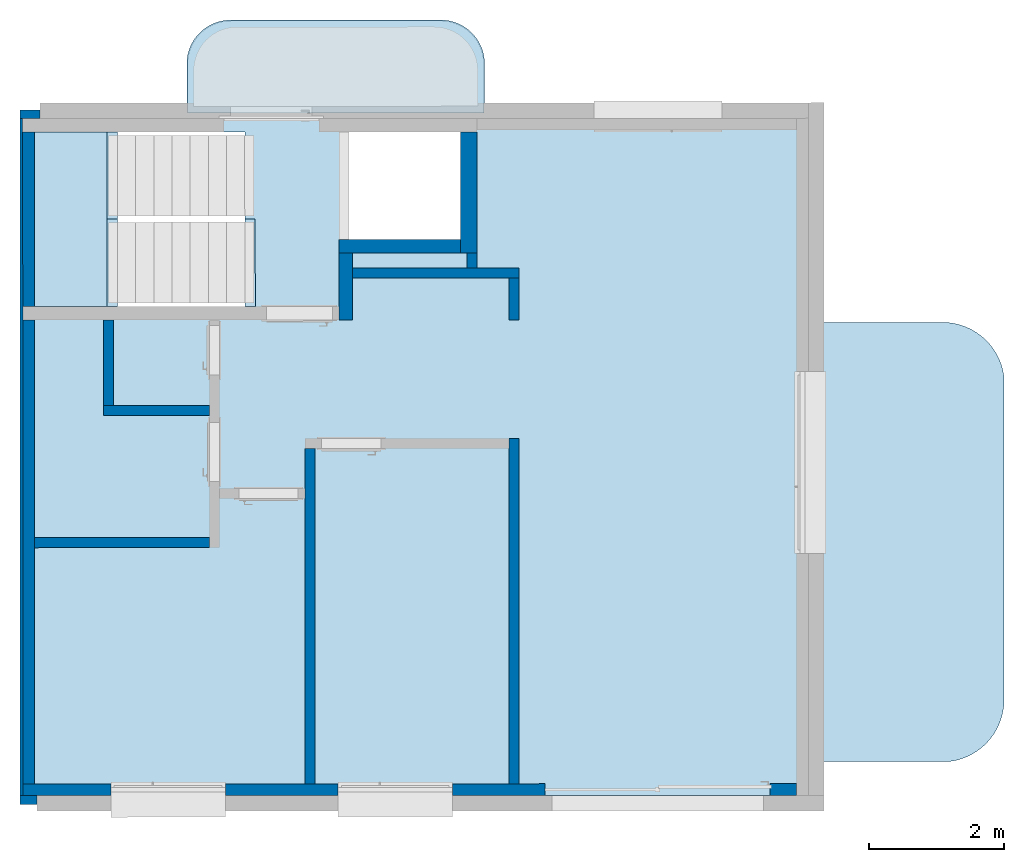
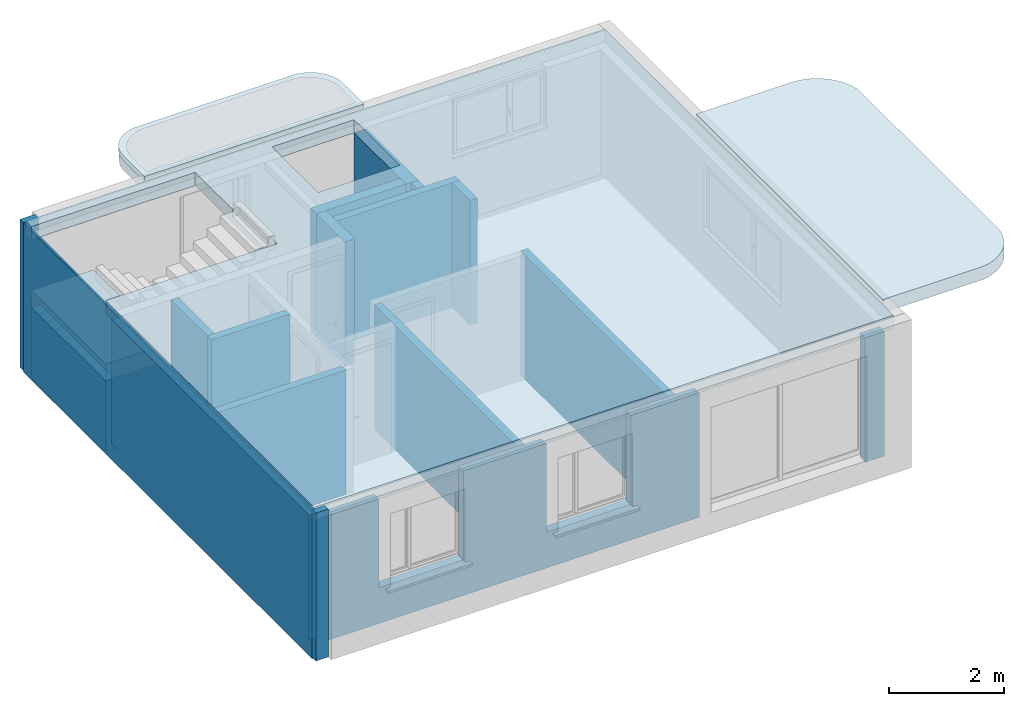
# One storey, part 1 of 9: 17 walls, 5 slabs, 8 openings.
"""IFC2X3 building model written with IfcOpenShell, lengths in metres."""

from ifc_helpers import new_model, entity, si_unit, converted_unit, derived_unit, direction, frame, frame_2d, origin, origin_with_axes, place, context, subcontext, project, spatial, polyline, rectangle, outline, extrude, faceted_brep, material, layer, layer_set, layer_usage, element, save


model = new_model("IFC2X3")

# Units and contexts
model_context = context("Model", 3, precision=1e-05, world=origin(), true_north=direction((0.772621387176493, -0.634867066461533)))
body_context = subcontext(model_context, "Body", "Model", "MODEL_VIEW")
ifc_project = project(units=[si_unit("LENGTHUNIT", "METRE"), si_unit("AREAUNIT", "SQUARE_METRE"), si_unit("VOLUMEUNIT", "CUBIC_METRE"), si_unit("MASSUNIT", "GRAM", prefix="KILO"), converted_unit("PLANEANGLEUNIT", "DEGREE", entity("IfcPlaneAngleMeasure", 0.0174532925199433), si_unit("PLANEANGLEUNIT", "RADIAN"), dimensions=[0, 0, 0, 0, 0, 0, 0]), derived_unit("THERMALTRANSMITTANCEUNIT", [(si_unit("POWERUNIT", "WATT"), 1), (si_unit("THERMODYNAMICTEMPERATUREUNIT", "KELVIN"), -1), (si_unit("LENGTHUNIT", "METRE"), -2)]), derived_unit("VOLUMETRICFLOWRATEUNIT", [(si_unit("LENGTHUNIT", "METRE"), 3), (converted_unit("TIMEUNIT", "hour", entity("IfcTimeMeasure", 3600.0), si_unit("TIMEUNIT", "SECOND"), dimensions=[0, 0, 1, 0, 0, 0, 0]), -1), (si_unit("LENGTHUNIT", "METRE"), -1)])], contexts=[model_context])

# Site, building, storey
site_placement = place(None, origin())
site = spatial("IfcSite", under=ifc_project, at=site_placement, Name="Modelle auf dem Nullpunkt", CompositionType="ELEMENT")
building_placement = place(site_placement, origin())
building = spatial("IfcBuilding", under=site, at=building_placement, Name="I", CompositionType="ELEMENT")
storey_placement = place(building_placement, origin())
storey = spatial("IfcBuildingStorey", under=building, at=storey_placement, Name="EG", CompositionType="ELEMENT", Elevation=0.0)

# Slabs
ifc_material_1 = material(Name="Béton")
slab_1_placement = place(storey_placement, frame((31.8119370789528, 2.21747843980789, 438.54)))
element("IfcSlab", 1, at=slab_1_placement, inside=storey, material=ifc_material_1, PredefinedType="FLOOR", context=body_context, shape_type="SweptSolid", body=[
    extrude(outline(polyline([(4.39933490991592, 0.750717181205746), (4.39736242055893, 0.779819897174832), (4.39408622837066, 0.808804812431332), (4.3895129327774, 0.837613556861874), (4.3836517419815, 0.866188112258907), (4.37651446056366, 0.894470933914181), (4.36811546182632, 0.922405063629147), (4.35847166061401, 0.949934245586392), (4.34760247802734, 0.97700303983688), (4.33552980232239, 1.00355693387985), (4.32227794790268, 1.02954245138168), (4.30787360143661, 1.05490726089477), (4.29234577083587, 1.07960028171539), (4.27572572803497, 1.10357178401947), (4.25804694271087, 1.12677349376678), (4.23934501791, 1.14915868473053), (4.21965761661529, 1.17068227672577), (4.19902438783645, 1.19130092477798), (4.17748688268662, 1.21097310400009), (4.15508847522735, 1.22965919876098), (4.13187427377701, 1.2473215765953), (4.10789102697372, 1.26392466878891), (4.08318703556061, 1.27943503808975), (4.05781204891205, 1.29382144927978), (4.03181716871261, 1.30705492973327), (4.00525474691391, 1.31910882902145), (3.97817827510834, 1.3299588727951), (3.95064228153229, 1.33958320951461), (3.92270222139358, 1.34796245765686), (3.89441436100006, 1.35507974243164), (3.86583566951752, 1.36092073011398), (3.83702369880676, 1.36547365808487), (3.80803647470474, 1.36872935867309), (3.7789323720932, 1.37068127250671), (3.74977000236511, 1.37132547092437), (0.649770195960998, 1.37022967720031), (0.620608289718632, 1.36956486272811), (0.591505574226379, 1.36759237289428), (0.562520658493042, 1.36431618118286), (0.5337119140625, 1.35974288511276), (0.505137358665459, 1.35388169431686), (0.47685453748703, 1.34674441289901), (0.448920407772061, 1.33834541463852), (0.421391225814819, 1.32870161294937), (0.39432243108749, 1.3178324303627), (0.367768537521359, 1.30575975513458), (0.341783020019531, 1.29250790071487), (0.316418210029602, 1.27810355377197), (0.291725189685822, 1.26257572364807), (0.267753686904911, 1.24595568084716), (0.24455197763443, 1.22827689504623), (0.222166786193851, 1.20957497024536), (0.200643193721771, 1.18988756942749), (0.18002454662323, 1.16925434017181), (0.160352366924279, 1.14771683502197), (0.141666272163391, 1.12531842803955), (0.124003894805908, 1.10210422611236), (0.107400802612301, 1.07812097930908), (0.0918904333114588, 1.05341698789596), (0.0775040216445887, 1.02804200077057), (0.0642705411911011, 1.00204712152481), (0.0522166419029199, 0.975484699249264), (0.0413665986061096, 0.948408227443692), (0.0317422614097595, 0.920872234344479), (0.0233630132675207, 0.892932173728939), (0.0162457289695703, 0.864644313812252), (0.0104047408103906, 0.836065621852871), (0.0058518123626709, 0.807253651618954), (0.00259611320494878, 0.778266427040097), (0.000644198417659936, 0.749162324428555), (0.0, 0.719999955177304), (0.000254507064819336, 0.0), (4.40025423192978, 0.00155531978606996), (4.39999972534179, 0.721555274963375), (4.39933490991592, 0.750717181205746)])), origin_with_axes(), (0.0, 0.0, 1.0), 0.22),
])
ifc_material_2 = material(Name="Béton")
slab_2_placement = place(storey_placement, frame((31.8019335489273, 2.21747490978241, 438.76)))
element("IfcSlab", 2, at=slab_2_placement, inside=storey, material=ifc_material_2, PredefinedType="FLOOR", context=body_context, shape_type="SweptSolid", body=[
    extrude(outline(polyline([(4.41736241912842, 0.789826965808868), (4.41408622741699, 0.818811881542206), (4.40951293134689, 0.847620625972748), (4.40365174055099, 0.876195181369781), (4.39651445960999, 0.904478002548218), (4.38811546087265, 0.932412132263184), (4.37847165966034, 0.959941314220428), (4.36760247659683, 0.987010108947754), (4.35552980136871, 1.01356400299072), (4.34227794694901, 1.03954952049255), (4.3278736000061, 1.06491433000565), (4.3123457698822, 1.08960735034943), (4.29572572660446, 1.11357885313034), (4.27804694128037, 1.13678056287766), (4.25934501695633, 1.1591657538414), (4.23965761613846, 1.18068934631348), (4.21902438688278, 1.20130799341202), (4.1974868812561, 1.22098017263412), (4.17508847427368, 1.23966626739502), (4.1518742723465, 1.25732864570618), (4.12789102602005, 1.27393173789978), (4.1031870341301, 1.28944210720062), (4.07781204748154, 1.30382851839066), (4.05181716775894, 1.31706199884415), (4.0252547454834, 1.32911589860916), (3.99817827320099, 1.33996594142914), (3.97064228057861, 1.34959027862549), (3.94270222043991, 1.35796952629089), (3.91441436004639, 1.36508681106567), (3.88583566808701, 1.37092779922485), (3.85702369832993, 1.37548072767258), (3.82803647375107, 1.37873642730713), (3.79893237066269, 1.38068834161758), (3.76977000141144, 1.38133254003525), (0.649770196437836, 1.38022967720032), (0.620608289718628, 1.37956486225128), (0.591505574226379, 1.37759237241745), (0.562520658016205, 1.37431618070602), (0.533711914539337, 1.36974288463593), (0.505137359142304, 1.36388169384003), (0.47685453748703, 1.35674441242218), (0.448920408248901, 1.34834541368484), (0.421391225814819, 1.33870161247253), (0.394322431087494, 1.32783242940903), (0.367768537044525, 1.31575975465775), (0.341783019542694, 1.3025078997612), (0.316418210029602, 1.28810355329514), (0.291725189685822, 1.2725757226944), (0.267753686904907, 1.25595567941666), (0.24455197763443, 1.2382768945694), (0.222166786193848, 1.21957496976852), (0.200643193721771, 1.19988756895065), (0.18002454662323, 1.17925433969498), (0.160352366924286, 1.15771683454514), (0.141666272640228, 1.13531842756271), (0.124003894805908, 1.11210422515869), (0.107400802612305, 1.08812097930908), (0.0918904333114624, 1.06341698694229), (0.0775040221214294, 1.03804200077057), (0.0642705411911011, 1.01204712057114), (0.0522166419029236, 0.98548469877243), (0.0413665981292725, 0.958408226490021), (0.0317422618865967, 0.930872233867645), (0.0233630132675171, 0.902932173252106), (0.016245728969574, 0.874644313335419), (0.0104047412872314, 0.846065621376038), (0.00585181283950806, 0.81725365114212), (0.00259611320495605, 0.788266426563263), (0.000644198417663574, 0.759162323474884), (0.0, 0.72999995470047), (0.000258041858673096, 0.0), (4.42025776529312, 0.00156238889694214), (4.41999972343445, 0.731562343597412), (4.41933490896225, 0.76072425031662), (4.41736241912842, 0.789826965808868)])), origin_with_axes(), (0.0, 0.0, 1.0), 0.1),
])

# Slab, openings
ifc_material_3 = material(Name="Béton")
slab_3_placement = place(storey_placement, frame((29.3670184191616, -0.65338574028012, 437.105)))
slab_3 = element("IfcSlab", 3, at=slab_3_placement, inside=storey, material=ifc_material_3, PredefinedType="FLOOR", context=body_context, shape_type="SweptSolid", body=[
    extrude(rectangle(XDim=1.4053348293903, YDim=2.5899999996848, at=frame_2d((-0.702209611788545, -1.29524829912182), x_axis=(-0.999999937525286, -0.000353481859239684))), frame((1.40533474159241, 2.59049659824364, 0.0), z_axis=(0.0, 0.0, 1.0), x_axis=(1.0, 0.0, 0.0)), (0.0, 0.0, 1.0), 0.36),
])
opening_1_placement = place(slab_3_placement, frame((1.25078809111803, 0.000441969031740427, 0.228336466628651)))
element("IfcOpeningElement", 4, at=opening_1_placement, cuts=slab_3, Name="Beton", ObjectType="Recess", context=body_context, shape_type="SweptSolid", body=[
    extrude(rectangle(XDim=0.155004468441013, YDim=1.29499999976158, at=frame_2d((0.0, 0.0), x_axis=(3.38553310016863e-10, -1.0))), frame((0.0777310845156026, 0.647527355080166, 6.17373972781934e-05), z_axis=(0.000796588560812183, 2.81579627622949e-07, 0.999999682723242), x_axis=(0.000353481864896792, -0.999999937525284, 0.0)), (0.0, -0.000796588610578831, 0.999999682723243), 0.131663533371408),
])
opening_2_placement = place(slab_3_placement, frame((1.25033033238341, 1.29544188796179, 0.131965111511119)))
element("IfcOpeningElement", 5, at=opening_2_placement, cuts=slab_3, Name="Beton", ObjectType="Recess", context=body_context, shape_type="SweptSolid", body=[
    extrude(rectangle(XDim=0.155004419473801, YDim=1.2949999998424, at=frame_2d((0.0, 0.0), x_axis=(-0.999999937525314, -0.000353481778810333))), frame((0.0777310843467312, 0.647527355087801, 0.0), z_axis=(0.0, 0.0, 1.0), x_axis=(1.0, 0.0, 0.0)), (0.0, 0.0, 1.0), 0.228034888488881),
])

ifc_material_4 = material(Name="Béton")
slab_4_placement = place(storey_placement, frame((29.3669477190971, -7.91338528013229, 438.54)))
slab_4 = element("IfcSlab", 6, at=slab_4_placement, inside=storey, material=ifc_material_4, PredefinedType="FLOOR", context=body_context, shape_type="SweptSolid", body=[
    extrude(outline(polyline([(0.0, 10.0499993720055), (0.00355249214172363, 0.0), (11.6635517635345, 0.00412159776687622), (11.6599992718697, 10.0541209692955), (0.0, 10.0499993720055)]), holes=[polyline([(4.84507039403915, 9.85171200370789), (6.49507029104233, 9.85229524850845), (6.49563586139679, 8.25229534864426), (4.84563596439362, 8.25171210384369), (4.84507039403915, 9.85171200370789)])]), origin_with_axes(), (0.0, 0.0, 1.0), 0.28),
])
opening_3_placement = place(slab_4_placement, frame((7.06963539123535e-05, 8.55544143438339, 0.0)))
element("IfcOpeningElement", 7, at=opening_3_placement, cuts=slab_4, Name="Deckendurchbruch", ObjectType="Opening", context=body_context, shape_type="SweptSolid", body=[
    extrude(outline(polyline([(-0.290564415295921, -0.516769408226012), (-0.135620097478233, -0.346714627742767), (1.75444476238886, -0.346046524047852), (1.75404709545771, 0.778953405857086), (-1.5413525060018, 0.777788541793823), (-1.54095483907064, -0.347211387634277), (-0.290564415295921, -0.516769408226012)])), frame((1.5413525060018, 0.516769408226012, 0.0), z_axis=(0.0, 0.0, 1.0), x_axis=(1.0, 0.0, 0.0)), (0.0, 0.0, 1.0), 0.28),
])
opening_4_placement = place(slab_4_placement, frame((0.000468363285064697, 7.25999954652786, 0.0)))
element("IfcOpeningElement", 8, at=opening_4_placement, cuts=slab_4, Name="Deckendurchbruch", ObjectType="Opening", context=body_context, shape_type="SweptSolid", body=[
    extrude(outline(polyline([(-1.54126001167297, 0.516121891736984), (-1.54074216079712, -0.948878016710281), (1.75465744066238, -0.947713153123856), (1.75413958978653, 0.51728675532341), (-0.13592527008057, 0.516618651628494), (-0.290869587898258, 0.346563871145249), (-1.54126001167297, 0.516121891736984)])), frame((1.54126001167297, 0.948878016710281, 0.0), z_axis=(0.0, 0.0, 1.0), x_axis=(1.0, 0.0, 0.0)), (0.0, 0.0, 1.0), 0.28),
])
opening_5_placement = place(slab_4_placement, frame((3.29591418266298, 7.26116440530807, 0.122012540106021)))
element("IfcOpeningElement", 9, at=opening_5_placement, cuts=slab_4, Name="Beton", ObjectType="Recess", context=body_context, shape_type="SweptSolid", body=[
    extrude(rectangle(XDim=0.155000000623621, YDim=1.29499999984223, at=frame_2d((0.0, 0.0), x_axis=(-0.999999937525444, -0.000353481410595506))), frame((0.0777288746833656, 0.647527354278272, 0.0), z_axis=(0.0, 0.0, 1.0), x_axis=(1.0, 0.0, 0.0)), (0.0, 0.0, 1.0), 0.157987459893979),
])

# Slab
ifc_material_5 = material(Name="Béton")
slab_5_placement = place(storey_placement, frame((41.1080180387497, -7.40423544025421, 438.54)))
element("IfcSlab", 10, at=slab_5_placement, inside=storey, material=ifc_material_5, PredefinedType="FLOOR", context=body_context, shape_type="SweptSolid", body=[
    extrude(outline(polyline([(2.8220055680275, 0.841745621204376), (2.8202813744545, 5.71949106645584), (2.81380840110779, 5.76026651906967), (2.8055125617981, 5.80071050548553), (2.79541056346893, 5.84074157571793), (2.78352275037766, 5.88027911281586), (2.76987306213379, 5.91924349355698), (2.75448898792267, 5.95755624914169), (2.73740150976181, 5.9951402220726), (2.71864503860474, 6.03191972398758), (2.69825734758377, 6.06782068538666), (2.67627949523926, 6.10277080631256), (2.65275574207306, 6.13669970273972), (2.62773346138, 6.16953904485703), (2.60126304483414, 6.20122270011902), (2.57339780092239, 6.23168686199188), (2.54419384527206, 6.26087017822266), (2.51370999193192, 6.28871387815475), (2.48200763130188, 6.31516188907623), (2.44915060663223, 6.34016094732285), (2.41520508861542, 6.36366070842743), (2.38023943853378, 6.38561384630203), (2.34432407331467, 6.40597615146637), (2.30753132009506, 6.42470661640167), (2.26993527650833, 6.44176751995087), (2.23161165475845, 6.45712450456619), (2.19263763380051, 6.47074664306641), (2.15309170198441, 6.48260650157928), (2.11305349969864, 6.49268019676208), (2.07260365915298, 6.50094744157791), (1.97925102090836, 6.51569922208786), (0.0, 6.5149995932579), (0.00230293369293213, 0.0), (2.02579741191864, 0.000715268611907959), (2.06657286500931, 0.00718824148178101), (2.10701685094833, 0.0154840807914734), (2.14704792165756, 0.025586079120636), (2.18658545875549, 0.0374738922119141), (2.22554983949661, 0.05112358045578), (2.26386259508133, 0.0665076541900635), (2.30144656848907, 0.0835951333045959), (2.33822606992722, 0.102351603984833), (2.37412703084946, 0.122739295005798), (2.4090771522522, 0.144717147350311), (2.44300604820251, 0.16824090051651), (2.47584539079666, 0.193263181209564), (2.50752904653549, 0.219733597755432), (2.53799320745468, 0.247598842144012), (2.56717652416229, 0.276802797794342), (2.59502022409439, 0.307286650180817), (2.62146823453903, 0.338989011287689), (2.64646729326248, 0.371846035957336), (2.66996705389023, 0.405791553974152), (2.69192019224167, 0.440757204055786), (2.71228249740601, 0.476672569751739), (2.73101296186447, 0.51346532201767), (2.74807386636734, 0.551061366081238), (2.76343085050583, 0.589384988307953), (2.77705298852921, 0.628359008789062), (2.78891284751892, 0.667904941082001), (2.79898654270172, 0.707943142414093), (2.80725378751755, 0.748392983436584), (2.8220055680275, 0.841745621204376)])), origin_with_axes(), (0.0, 0.0, 1.0), 0.28),
])

# Walls
ifc_material_6 = material(Name="Béton")
ifc_layer_1 = layer(ifc_material_6, 0.249999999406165)
ifc_layer_set_1 = layer_set([ifc_layer_1])
ifc_layer_usage_1 = layer_usage(ifc_layer_set_1, "AXIS2", "POSITIVE", -4.22370471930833e-16)
wall_1_placement = place(storey_placement, frame((36.1126542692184, 0.138998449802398, 435.89), z_axis=(0.0, 0.0, 1.0), x_axis=(-0.000353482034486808, 0.999999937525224, 0.0)))
element("IfcWallStandardCase", 11, at=wall_1_placement, inside=storey, material=ifc_layer_usage_1, Name="Betonwand", context=body_context, shape_type="SweptSolid", body=[
    extrude(rectangle(XDim=1.79999999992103, YDim=0.249999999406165, at=frame_2d((0.899999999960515, 0.124999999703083), x_axis=(1.0, 0.0))), origin_with_axes(), (0.0, 0.0, 1.0), 2.65),
])
ifc_material_7 = material(Name="Béton")
ifc_layer_2 = layer(ifc_material_7, 0.199999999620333)
ifc_layer_set_2 = layer_set([ifc_layer_2])
ifc_layer_usage_2 = layer_usage(ifc_layer_set_2, "AXIS2", "POSITIVE", -9.19403442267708e-17)
wall_2_placement = place(storey_placement, frame((35.8625835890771, 0.338910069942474, 435.89), z_axis=(0.0, 0.0, 1.0), x_axis=(-0.999999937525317, -0.000353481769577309, 0.0)))
element("IfcWallStandardCase", 12, at=wall_2_placement, inside=storey, material=ifc_layer_usage_2, Name="Betonwand", context=body_context, shape_type="SweptSolid", body=[
    extrude(rectangle(XDim=1.79999999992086, YDim=0.199999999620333, at=frame_2d((0.89999999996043, 0.0999999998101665), x_axis=(1.0, 0.0))), origin_with_axes(), (0.0, 0.0, 1.0), 2.65),
])
ifc_material_8 = material(Name="Brique")
ifc_layer_3 = layer(ifc_material_8, 0.15000000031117)
ifc_layer_set_3 = layer_set([ifc_layer_3])
ifc_layer_usage_3 = layer_usage(ifc_layer_set_3, "AXIS2", "POSITIVE", -7.34065586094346e-17)
wall_3_placement = place(storey_placement, frame((36.7327319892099, -0.0807823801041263, 435.89), z_axis=(0.0, 0.0, 1.0), x_axis=(-0.999999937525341, -0.000353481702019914, 0.0)))
element("IfcWallStandardCase", 13, at=wall_3_placement, inside=storey, material=ifc_layer_usage_3, context=body_context, shape_type="SweptSolid", body=[
    extrude(rectangle(XDim=2.46999999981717, YDim=0.15000000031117, at=frame_2d((1.23499999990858, 0.075000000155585), x_axis=(1.0, 0.0))), origin_with_axes(), (0.0, 0.0, 1.0), 2.65),
])
ifc_material_9 = material(Name="Brique")
ifc_layer_4 = layer(ifc_material_9, 0.15000000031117)
ifc_layer_set_4 = layer_set([ifc_layer_4])
ifc_layer_usage_4 = layer_usage(ifc_layer_set_4, "AXIS2", "POSITIVE", -4.3481201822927e-17)
wall_4_placement = place(storey_placement, frame((36.112732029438, -0.081001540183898, 435.89), z_axis=(0.0, 0.0, 1.0), x_axis=(-0.00035347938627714, 0.99999993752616, 0.0)))
element("IfcWallStandardCase", 14, at=wall_4_placement, inside=storey, material=ifc_layer_usage_4, context=body_context, shape_type="SweptSolid", body=[
    extrude(rectangle(XDim=0.21999999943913, YDim=0.15000000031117, at=frame_2d((0.109999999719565, 0.075000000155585), x_axis=(1.0, 0.0))), origin_with_axes(), (0.0, 0.0, 1.0), 2.65),
])
ifc_material_10 = material(Name="Béton")
ifc_layer_5 = layer(ifc_material_10, 0.200000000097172)
ifc_layer_set_5 = layer_set([ifc_layer_5])
ifc_layer_usage_5 = layer_usage(ifc_layer_set_5, "AXIS2", "POSITIVE", -2.33688068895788e-16)
wall_5_placement = place(storey_placement, frame((34.0626543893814, 0.138273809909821, 435.89), z_axis=(0.0, 0.0, 1.0), x_axis=(0.000353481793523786, -0.999999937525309, 0.0)))
element("IfcWallStandardCase", 15, at=wall_5_placement, inside=storey, material=ifc_layer_usage_5, Name="Betonwand", context=body_context, shape_type="SweptSolid", body=[
    extrude(rectangle(XDim=0.990000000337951, YDim=0.200000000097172, at=frame_2d((0.495000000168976, 0.100000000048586), x_axis=(1.0, 0.0))), origin_with_axes(), (0.0, 0.0, 1.0), 2.65),
])
ifc_material_11 = material(Name="Brique")
ifc_layer_6 = layer(ifc_material_11, 0.149999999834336)
ifc_layer_set_6 = layer_set([ifc_layer_6])
ifc_layer_usage_6 = layer_usage(ifc_layer_set_6, "AXIS2", "POSITIVE", -4.28268531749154e-16)
wall_6_placement = place(storey_placement, frame((36.5827850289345, -0.230835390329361, 435.89), z_axis=(0.0, 0.0, 1.0), x_axis=(0.000353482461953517, -0.999999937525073, 0.0)))
element("IfcWallStandardCase", 16, at=wall_6_placement, inside=storey, material=ifc_layer_usage_6, context=body_context, shape_type="SweptSolid", body=[
    extrude(rectangle(XDim=0.619999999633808, YDim=0.149999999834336, at=frame_2d((0.309999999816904, 0.0749999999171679), x_axis=(1.0, 0.0))), origin_with_axes(), (0.0, 0.0, 1.0), 2.65),
])
ifc_material_12 = material(Name="Isolation périphérique")
ifc_layer_7 = layer(ifc_material_12, 0.130000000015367)
ifc_layer_set_7 = layer_set([ifc_layer_7])
ifc_layer_usage_7 = layer_usage(ifc_layer_set_7, "AXIS2", "POSITIVE", -3.04754372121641e-16)
wall_7_placement = place(storey_placement, frame((29.3269477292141, 2.13659994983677, 435.64), z_axis=(0.0, 0.0, 1.0), x_axis=(0.999999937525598, 0.000353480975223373, 0.0)))
element("IfcWallStandardCase", 17, at=wall_7_placement, inside=storey, material=ifc_layer_usage_7, context=body_context, shape_type="SweptSolid", body=[
    extrude(rectangle(XDim=0.299999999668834, YDim=0.130000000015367, at=frame_2d((0.149999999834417, 0.0650000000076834), x_axis=(1.0, 0.0))), origin_with_axes(), (0.0, 0.0, 1.0), 3.15),
])
ifc_material_13 = material(Name="Isolation périphérique")
ifc_layer_8 = layer(ifc_material_13, 0.129999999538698)
ifc_layer_set_8 = layer_set([ifc_layer_8])
ifc_layer_usage_8 = layer_usage(ifc_layer_set_8, "AXIS2", "POSITIVE", -1.80837767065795e-19)
wall_8_placement = place(storey_placement, frame((29.5805001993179, -7.91331105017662, 435.64), z_axis=(0.0, 0.0, 1.0), x_axis=(-0.999999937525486, -0.000353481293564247, 0.0)))
element("IfcWallStandardCase", 18, at=wall_8_placement, inside=storey, material=ifc_layer_usage_8, context=body_context, shape_type="SweptSolid", body=[
    extrude(rectangle(XDim=0.249999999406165, YDim=0.129999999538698, at=frame_2d((0.124999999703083, 0.064999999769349), x_axis=(1.0, 0.0))), origin_with_axes(), (0.0, 0.0, 1.0), 3.15),
])
ifc_material_14 = material(Name="Brique")
ifc_layer_9 = layer(ifc_material_14, 0.149999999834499)
ifc_layer_set_9 = layer_set([ifc_layer_9])
ifc_layer_usage_9 = layer_usage(ifc_layer_set_9, "AXIS2", "POSITIVE", 0.0)
wall_9_placement = place(storey_placement, frame((33.5536795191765, -2.76190628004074, 435.89), z_axis=(0.0, 0.0, 1.0), x_axis=(0.000353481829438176, -0.999999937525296, 0.0)))
element("IfcWallStandardCase", 19, at=wall_9_placement, inside=storey, material=ifc_layer_usage_9, context=body_context, shape_type="SweptSolid", body=[
    extrude(rectangle(XDim=4.97500000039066, YDim=0.149999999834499, at=frame_2d((2.48750000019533, 0.0749999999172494), x_axis=(1.0, 0.0))), origin_with_axes(), (0.0, 0.0, 1.0), 2.65),
])
ifc_material_15 = material(Name="Brique")
ifc_layer_10 = layer(ifc_material_15, 0.149999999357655)
ifc_layer_set_10 = layer_set([ifc_layer_10])
ifc_layer_usage_10 = layer_usage(ifc_layer_set_10, "AXIS2", "POSITIVE", -1.47559669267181e-16)
wall_10_placement = place(storey_placement, frame((36.7354378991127, -7.7357819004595, 435.89), z_axis=(0.0, 0.0, 1.0), x_axis=(-0.000353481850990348, 0.999999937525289, 0.0)))
element("IfcWallStandardCase", 20, at=wall_10_placement, inside=storey, material=ifc_layer_usage_10, context=body_context, shape_type="SweptSolid", body=[
    extrude(rectangle(XDim=5.12499999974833, YDim=0.149999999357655, at=frame_2d((2.56249999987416, 0.0749999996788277), x_axis=(1.0, 0.0))), origin_with_axes(), (0.0, 0.0, 1.0), 2.65),
])
ifc_material_16 = material(Name="Brique")
ifc_layer_11 = layer(ifc_material_16, 0.149999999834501)
ifc_layer_set_11 = layer_set([ifc_layer_11])
ifc_layer_usage_11 = layer_usage(ifc_layer_set_11, "AXIS2", "POSITIVE", 0.0)
wall_11_placement = place(storey_placement, frame((29.5441993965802, -4.233323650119, 435.89), z_axis=(0.0, 0.0, 1.0), x_axis=(0.999999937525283, 0.000353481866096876, 0.0)))
element("IfcWallStandardCase", 21, at=wall_11_placement, inside=storey, material=ifc_layer_usage_11, context=body_context, shape_type="SweptSolid", body=[
    extrude(rectangle(XDim=2.5949999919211, YDim=0.149999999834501, at=frame_2d((1.29749999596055, 0.0749999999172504), x_axis=(1.0, 0.0))), origin_with_axes(), (0.0, 0.0, 1.0), 2.65),
])
ifc_material_17 = material(Name="Brique")
ifc_layer_12 = layer(ifc_material_17, 0.17499999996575)
ifc_layer_set_12 = layer_set([ifc_layer_12])
ifc_layer_usage_12 = layer_usage(ifc_layer_set_12, "AXIS2", "POSITIVE", -1.57449733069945e-16)
wall_12_placement = place(storey_placement, frame((29.3680046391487, -0.853385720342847, 435.89), z_axis=(0.0, 0.0, 1.0), x_axis=(0.000353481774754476, -0.999999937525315, 0.0)))
element("IfcWallStandardCase", 22, at=wall_12_placement, inside=storey, material=ifc_layer_usage_12, context=body_context, shape_type="SweptSolid", body=[
    extrude(rectangle(XDim=6.88500000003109, YDim=0.17499999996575, at=frame_2d((3.44250000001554, 0.0874999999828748), x_axis=(1.0, 0.0))), origin_with_axes(), (0.0, 0.0, 1.0), 2.65),
])
ifc_material_18 = material(Name="Brique")
ifc_layer_13 = layer(ifc_material_18, 0.150000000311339)
ifc_layer_set_13 = layer_set([ifc_layer_13])
ifc_layer_usage_13 = layer_usage(ifc_layer_set_13, "AXIS2", "POSITIVE", -8.40078874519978e-17)
wall_13_placement = place(storey_placement, frame((32.1384529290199, -2.12112780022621, 435.89), z_axis=(0.0, 0.0, 1.0), x_axis=(-0.999999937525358, -0.000353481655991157, 0.0)))
element("IfcWallStandardCase", 23, at=wall_13_placement, inside=storey, material=ifc_layer_usage_13, context=body_context, shape_type="SweptSolid", body=[
    extrude(rectangle(XDim=1.57500000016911, YDim=0.150000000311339, at=frame_2d((0.787500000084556, 0.0750000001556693), x_axis=(1.0, 0.0))), origin_with_axes(), (0.0, 0.0, 1.0), 2.65),
])
ifc_material_19 = material(Name="Brique")
ifc_layer_14 = layer(ifc_material_19, 0.149999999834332)
ifc_layer_set_14 = layer_set([ifc_layer_14])
ifc_layer_usage_14 = layer_usage(ifc_layer_set_14, "AXIS2", "POSITIVE", -2.27293288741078e-16)
wall_14_placement = place(storey_placement, frame((30.5630045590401, -0.852963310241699, 435.89), z_axis=(0.0, 0.0, 1.0), x_axis=(0.000353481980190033, -0.999999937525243, 0.0)))
element("IfcWallStandardCase", 24, at=wall_14_placement, inside=storey, material=ifc_layer_usage_14, context=body_context, shape_type="SweptSolid", body=[
    extrude(rectangle(XDim=1.268721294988, YDim=0.149999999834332, at=frame_2d((0.634360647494, 0.0749999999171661), x_axis=(1.0, 0.0))), origin_with_axes(), (0.0, 0.0, 1.0), 2.65),
])
ifc_material_20 = material(Name="Brique")
ifc_layer_15 = layer(ifc_material_20, 0.175000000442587)
ifc_layer_set_15 = layer_set([ifc_layer_15])
ifc_layer_usage_15 = layer_usage(ifc_layer_set_15, "AXIS2", "POSITIVE", -1.13686830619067e-16)
wall_15_placement = place(storey_placement, frame((29.5429339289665, -0.653323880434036, 435.61), z_axis=(0.0, 0.0, 1.0), x_axis=(-0.000353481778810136, 0.999999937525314, 0.0)))
element("IfcWallStandardCase", 25, at=wall_15_placement, inside=storey, material=ifc_layer_usage_15, context=body_context, shape_type="SweptSolid", body=[
    extrude(rectangle(XDim=2.5899999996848, YDim=0.175000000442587, at=frame_2d((1.2949999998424, 0.0875000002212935), x_axis=(1.0, 0.0))), origin_with_axes(), (0.0, 0.0, 1.0), 1.495),
])
ifc_material_21 = material(Name="Isolation périphérique")
ifc_layer_16 = layer(ifc_material_21, 0.0399999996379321)
ifc_layer_set_16 = layer_set([ifc_layer_16])
ifc_layer_usage_16 = layer_usage(ifc_layer_set_16, "AXIS2", "POSITIVE", -3.61374635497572e-17)
wall_16_placement = place(storey_placement, frame((29.3705002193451, -7.91338528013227, 435.61), z_axis=(0.0, 0.0, 1.0), x_axis=(-0.000353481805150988, 0.999999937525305, 0.0)))
element("IfcWallStandardCase", 26, at=wall_16_placement, inside=storey, material=ifc_layer_usage_16, context=body_context, shape_type="SweptSolid", body=[
    extrude(rectangle(XDim=10.0499999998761, YDim=0.0399999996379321, at=frame_2d((5.02499999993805, 0.019999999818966), x_axis=(1.0, 0.0))), origin_with_axes(), (0.0, 0.0, 1.0), 3.18),
])

# Wall, openings
ifc_material_22 = material(Name="Brique")
wall_17_placement = place(storey_placement, frame((29.3704383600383, -7.91338528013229, 435.89)))
wall_17 = element("IfcWall", 27, at=wall_17_placement, inside=storey, material=ifc_material_22, context=body_context, shape_type="Brep", body=[
    faceted_brep([(6.18593067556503e-05, 0.0, 0.0), (0.0, 0.174999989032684, 0.0), (0.0, 0.174999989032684, 2.65), (6.18593067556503e-05, 0.0, 2.65), (11.4799992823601, 0.179057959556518, 0.0), (11.4799992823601, 0.179057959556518, 2.65), (11.4800611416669, 0.00405797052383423, 0.0), (11.4800611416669, 0.00405797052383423, 2.65)], [[[0, 1, 2, 3]], [[1, 4, 5, 2]], [[4, 6, 7, 5]], [[6, 0, 3, 7]], [[3, 2, 5, 7]], [[0, 6, 4, 1]]], orient=[[False], [False], [False], [False], [False], [False]]),
])
opening_6_placement = place(wall_17_placement, frame((4.67499970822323, 0.00165252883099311, 0.76)))
element("IfcOpeningElement", 28, at=opening_6_placement, cuts=wall_17, ObjectType="Opening", context=body_context, shape_type="Brep", body=[
    faceted_brep([(1.69999989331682, 0.175600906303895, 0.0), (1.69999989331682, 0.175600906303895, 1.89), (0.0, 0.174999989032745, 1.89), (0.0, 0.174999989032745, 0.0), (1.70006175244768, 0.000600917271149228, 0.0), (6.1859130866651e-05, 0.0, 0.0), (6.1859130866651e-05, 0.0, 1.89), (1.70006175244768, 0.000600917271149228, 1.89)], [[[0, 1, 2, 3]], [[4, 5, 6, 7]], [[3, 5, 4, 0]], [[2, 6, 5, 3]], [[1, 7, 6, 2]], [[0, 4, 7, 1]]], orient=[[False], [False], [False], [False], [False], [False]]),
])
opening_7_placement = place(wall_17_placement, frame((1.30499991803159, 0.000461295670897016, 0.76)))
element("IfcOpeningElement", 29, at=opening_7_placement, cuts=wall_17, ObjectType="Opening", context=body_context, shape_type="Brep", body=[
    faceted_brep([(1.69999989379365, 0.175600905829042, 0.0), (1.69999989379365, 0.175600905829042, 1.89), (0.0, 0.174999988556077, 1.89), (0.0, 0.174999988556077, 0.0), (1.70006175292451, 0.00060091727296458, 0.0), (6.1859130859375e-05, 0.0, 0.0), (6.1859130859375e-05, 0.0, 1.89), (1.70006175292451, 0.00060091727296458, 1.89)], [[[0, 1, 2, 3]], [[4, 5, 6, 7]], [[3, 5, 4, 0]], [[2, 6, 5, 3]], [[1, 7, 6, 2]], [[0, 4, 7, 1]]], orient=[[False], [False], [False], [False], [False], [False]]),
])
opening_8_placement = place(wall_17_placement, frame((7.7499995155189, 0.0027394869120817, 0.0)))
element("IfcOpeningElement", 30, at=opening_8_placement, cuts=wall_17, ObjectType="Opening", context=body_context, shape_type="Brep", body=[
    faceted_brep([(3.33999979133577, 0.176180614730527, 0.0), (3.33999979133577, 0.176180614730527, 2.65), (0.0, 0.174999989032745, 2.65), (0.0, 0.174999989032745, 0.0), (3.34006165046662, 0.00118062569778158, 0.0), (6.1859130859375e-05, 0.0, 0.0), (6.1859130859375e-05, 0.0, 2.65), (3.34006165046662, 0.00118062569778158, 2.65)], [[[0, 1, 2, 3]], [[4, 5, 6, 7]], [[3, 5, 4, 0]], [[2, 6, 5, 3]], [[1, 7, 6, 2]], [[0, 4, 7, 1]]], orient=[[False], [False], [False], [False], [False], [False]]),
])

save(model, "model.ifc")
